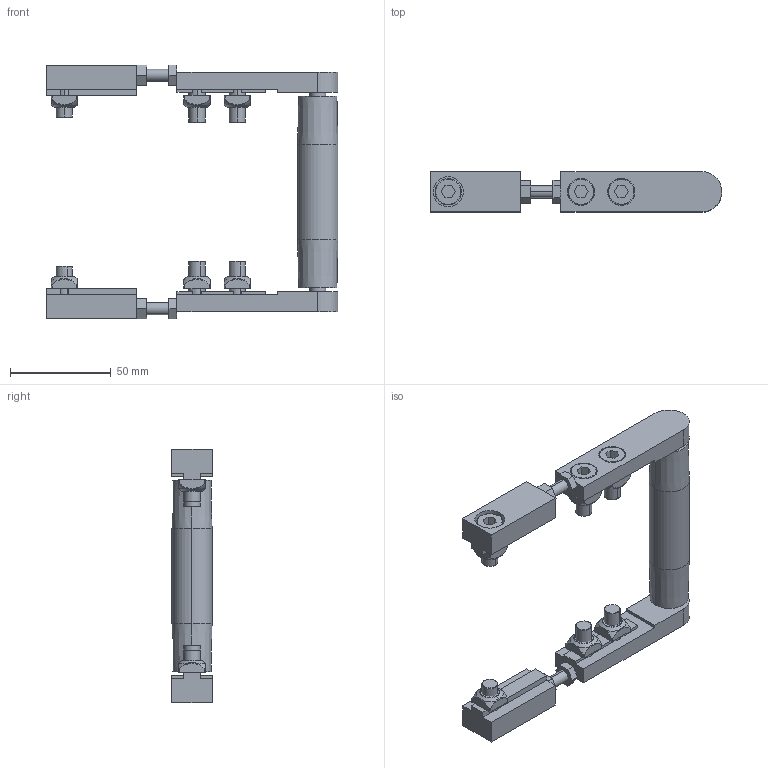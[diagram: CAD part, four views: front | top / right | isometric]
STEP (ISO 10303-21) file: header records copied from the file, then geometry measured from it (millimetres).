
FILE_DESCRIPTION (( 'STEP AP214' ), '1' );
FILE_NAME ('084.020.KI.075.STEP', '2021-02-05T13:51:38', ( '' ), ( '' ), 'SwSTEP 2.0', 'SolidWorks 2018', '' );
FILE_SCHEMA (( 'AUTOMOTIVE_DESIGN' ));
Length unit declared in the file: millimetre
Products named in the file (10): 084.302.000 DADI ALUSIC 13x13-1_084.302.004; Circlip DIN 471 - 8 x 0.8_Circlip DIN 471 - 8 x 0.8; 084.800.007; 084.800.002; 084.800.008; 084.301.000 VITI ALUSIC_084.301.003; 084.020.KI.075; 084.802.008; 084.800.012; 084.800.020.075
Assembly tree (27 placements, depth 2):
  084.020.KI.075
    084.802.008  x2
    084.301.000 VITI ALUSIC_084.301.003  x6
    084.302.000 DADI ALUSIC 13x13-1_084.302.004  x6
    084.800.020.075
    084.800.012  x4
    084.800.008  x2
    084.800.002  x2
    084.800.007  x2
    Circlip DIN 471 - 8 x 0.8_Circlip DIN 471 - 8 x 0.8  x2
Bounding box: 145 x 20 x 126 mm (x, y, z)
Volume: 80084.7 mm3; surface area: 52685.5 mm2
Topology: 31 solids, 31 shells, 664 faces, 1564 edges, 998 vertices
Faces by surface type: plane 262, cylinder 210, torus 112, cone 56, bspline 24
Entity records: 7452 total; most frequent: CARTESIAN_POINT 1561, DIRECTION 1208, ORIENTED_EDGE 1048, EDGE_CURVE 524, AXIS2_PLACEMENT_3D 474, VERTEX_POINT 337, VECTOR 260, LINE 260
